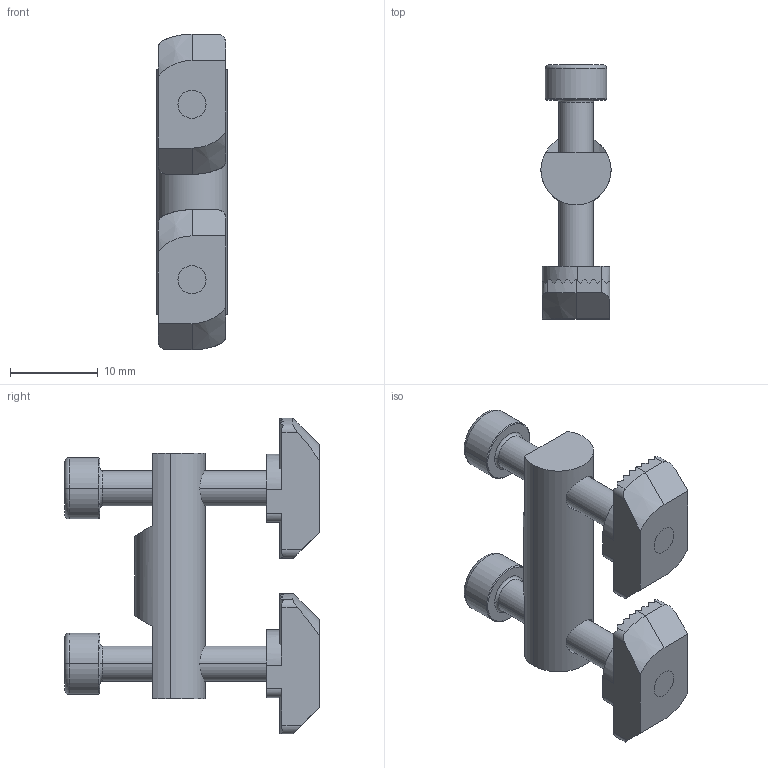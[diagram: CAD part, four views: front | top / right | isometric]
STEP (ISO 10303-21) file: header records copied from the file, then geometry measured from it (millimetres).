
FILE_DESCRIPTION (( 'STEP AP203' ), '1' );
FILE_NAME ('099c301.STEP', '2011-01-25T11:51:56', ( 'Wido Fath' ), ( 'Fath GmbH' ), 'SwSTEP 2.0', 'SolidWorks 2010', '' );
FILE_SCHEMA (( 'CONFIG_CONTROL_DESIGN' ));
Length unit declared in the file: millimetre
Products named in the file (4): 099c301; m4x25i_ohne Gewinde; 096h08415_096 h08 4 15; 099c301r01_099 c 30 r01
Assembly tree (5 placements, depth 2):
  099c301
    099c301r01_099 c 30 r01
    096h08415_096 h08 4 15  x2
    m4x25i_ohne Gewinde  x2
Bounding box: 8 x 29 x 36 mm (x, y, z)
Volume: 2912.6 mm3; surface area: 2878.9 mm2
Topology: 5 solids, 5 shells, 209 faces, 565 edges, 370 vertices
Faces by surface type: plane 108, cylinder 81, cone 12, torus 8
Entity records: 4377 total; most frequent: CARTESIAN_POINT 1289, ORIENTED_EDGE 598, DIRECTION 499, EDGE_CURVE 299, VERTEX_POINT 196, AXIS2_PLACEMENT_3D 174, VECTOR 151, LINE 151
